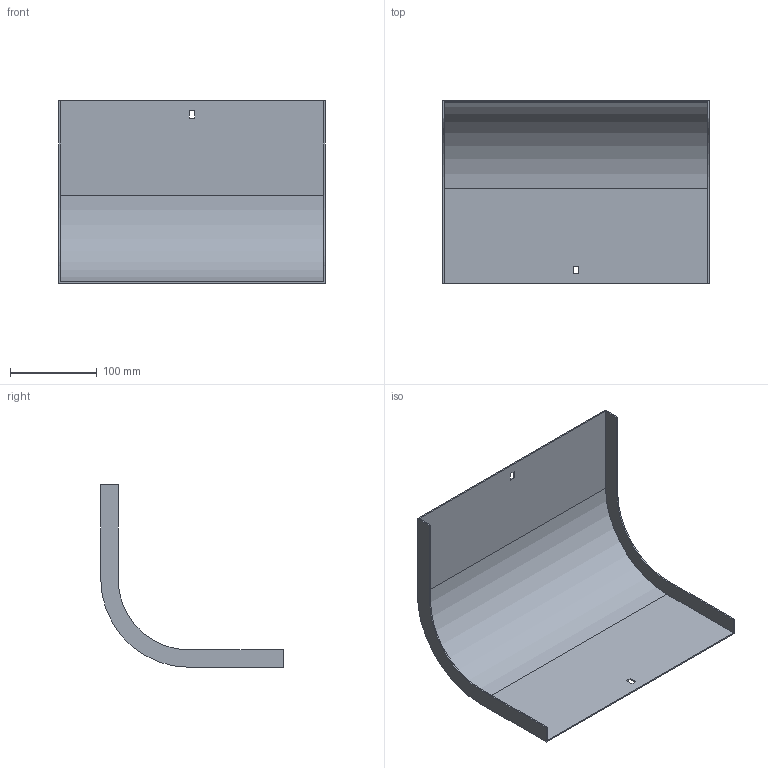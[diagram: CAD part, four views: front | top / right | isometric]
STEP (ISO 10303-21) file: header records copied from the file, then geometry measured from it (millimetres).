
FILE_DESCRIPTION (( 'STEP AP214' ), '1' );
FILE_NAME ('33G1C300.step', '2025-02-21T12:44:54', ( '' ), ( '' ), 'SwSTEP 2.0', 'SolidWorks 2023', '' );
FILE_SCHEMA (( 'AUTOMOTIVE_DESIGN' ));
Length unit declared in the file: millimetre
Products named in the file (1): 33G1C300
Bounding box: 307 x 210.5 x 210.5 mm (x, y, z)
Volume: 193101.7 mm3; surface area: 259635.5 mm2
Topology: 1 solids, 1 shells, 26 faces, 72 edges, 48 vertices
Faces by surface type: plane 22, cylinder 4
Entity records: 855 total; most frequent: CARTESIAN_POINT 147, ORIENTED_EDGE 144, DIRECTION 134, EDGE_CURVE 72, LINE 64, VECTOR 64, VERTEX_POINT 48, AXIS2_PLACEMENT_3D 35
